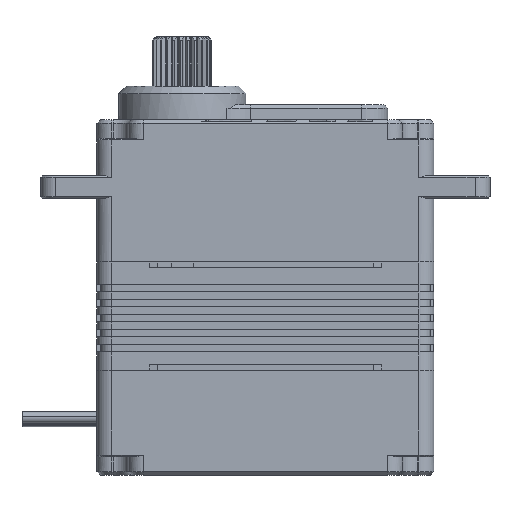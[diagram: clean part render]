
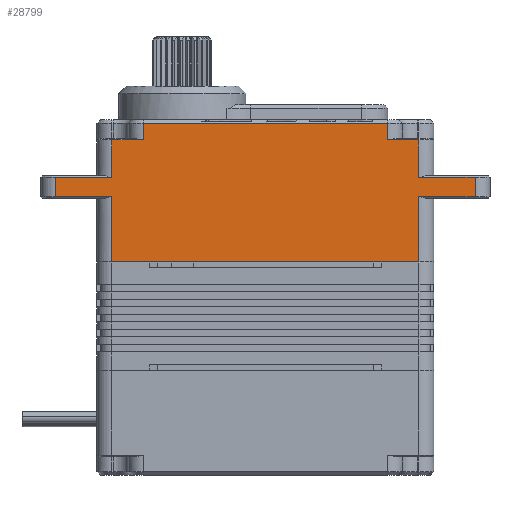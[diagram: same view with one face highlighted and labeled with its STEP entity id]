
A CAD part, front view. The second image highlights one B-rep face of the part: STEP entity #28799.
In plain terms, the highlighted planar face has unit normal (0, -1, 0).
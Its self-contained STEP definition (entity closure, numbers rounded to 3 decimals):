
#248 = VERTEX_POINT ( 'NONE', #17022 ) ;
#282 = LINE ( 'NONE', #24318, #16237 ) ;
#645 = LINE ( 'NONE', #14373, #29141 ) ;
#794 = ORIENTED_EDGE ( 'NONE', *, *, #8129, .T. ) ;
#804 = DIRECTION ( 'NONE',  ( 0., 1., 0. ) ) ;
#808 = CARTESIAN_POINT ( 'NONE',  ( -59.51, 17.009, 16.3 ) ) ;
#1126 = LINE ( 'NONE', #11501, #5810 ) ;
#1382 = CARTESIAN_POINT ( 'NONE',  ( -52.01, 17.009, 13.7 ) ) ;
#1401 = EDGE_CURVE ( 'NONE', #23269, #7123, #17127, .T. ) ;
#1585 = DIRECTION ( 'NONE',  ( -1., 0., 0. ) ) ;
#1720 = LINE ( 'NONE', #21945, #25918 ) ;
#1858 = VERTEX_POINT ( 'NONE', #12440 ) ;
#2001 = CARTESIAN_POINT ( 'NONE',  ( -52.01, 17.009, 21.3 ) ) ;
#2783 = VECTOR ( 'NONE', #8322, 1000. ) ;
#2850 = VERTEX_POINT ( 'NONE', #9831 ) ;
#2997 = EDGE_CURVE ( 'NONE', #248, #2850, #1720, .T. ) ;
#3148 = VECTOR ( 'NONE', #22595, 1000. ) ;
#3431 = CARTESIAN_POINT ( 'NONE',  ( -52.01, 17.009, 16.3 ) ) ;
#3527 = LINE ( 'NONE', #12425, #2783 ) ;
#4180 = ORIENTED_EDGE ( 'NONE', *, *, #25674, .T. ) ;
#4514 = CARTESIAN_POINT ( 'NONE',  ( -15.21, 17.009, 21.3 ) ) ;
#5309 = DIRECTION ( 'NONE',  ( 0., 0., 1. ) ) ;
#5410 = ORIENTED_EDGE ( 'NONE', *, *, #19938, .T. ) ;
#5572 = ORIENTED_EDGE ( 'NONE', *, *, #13184, .F. ) ;
#5810 = VECTOR ( 'NONE', #24659, 1000. ) ;
#6328 = VERTEX_POINT ( 'NONE', #1382 ) ;
#6841 = CARTESIAN_POINT ( 'NONE',  ( -9.01, 17.009, 13.7 ) ) ;
#7123 = VERTEX_POINT ( 'NONE', #808 ) ;
#7596 = VECTOR ( 'NONE', #7640, 1000. ) ;
#7640 = DIRECTION ( 'NONE',  ( 0., 0., 1. ) ) ;
#7697 = VECTOR ( 'NONE', #15556, 1000. ) ;
#7792 = DIRECTION ( 'NONE',  ( 0., 0., -1. ) ) ;
#7870 = ORIENTED_EDGE ( 'NONE', *, *, #11037, .T. ) ;
#8129 = EDGE_CURVE ( 'NONE', #7123, #10262, #23975, .T. ) ;
#8322 = DIRECTION ( 'NONE',  ( 0., 0., 1. ) ) ;
#8637 = LINE ( 'NONE', #10211, #20546 ) ;
#8894 = DIRECTION ( 'NONE',  ( -1., 0., 0. ) ) ;
#9831 = CARTESIAN_POINT ( 'NONE',  ( -47.81, 17.009, 21.3 ) ) ;
#10211 = CARTESIAN_POINT ( 'NONE',  ( -31.51, 17.009, 5. ) ) ;
#10262 = VERTEX_POINT ( 'NONE', #26241 ) ;
#10482 = VECTOR ( 'NONE', #14035, 1000. ) ;
#10540 = ORIENTED_EDGE ( 'NONE', *, *, #24408, .T. ) ;
#10719 = CARTESIAN_POINT ( 'NONE',  ( -3.51, 17.009, 16.3 ) ) ;
#10817 = EDGE_CURVE ( 'NONE', #13264, #22649, #27336, .T. ) ;
#11037 = EDGE_CURVE ( 'NONE', #12952, #19750, #23750, .T. ) ;
#11151 = CARTESIAN_POINT ( 'NONE',  ( -52.01, 17.009, 5.5 ) ) ;
#11223 = DIRECTION ( 'NONE',  ( 0., 0., -1. ) ) ;
#11224 = VERTEX_POINT ( 'NONE', #14091 ) ;
#11297 = CARTESIAN_POINT ( 'NONE',  ( -15.21, 17.009, 21.3 ) ) ;
#11501 = CARTESIAN_POINT ( 'NONE',  ( -11.01, 17.009, 5.5 ) ) ;
#11642 = ORIENTED_EDGE ( 'NONE', *, *, #12555, .T. ) ;
#11655 = VECTOR ( 'NONE', #8894, 1000. ) ;
#11922 = CARTESIAN_POINT ( 'NONE',  ( -3.51, 17.009, 13.7 ) ) ;
#12159 = DIRECTION ( 'NONE',  ( -1., 0., 0. ) ) ;
#12425 = CARTESIAN_POINT ( 'NONE',  ( -11.01, 17.009, 5.5 ) ) ;
#12440 = CARTESIAN_POINT ( 'NONE',  ( -11.01, 17.009, 5. ) ) ;
#12555 = EDGE_CURVE ( 'NONE', #22070, #24483, #1126, .T. ) ;
#12952 = VERTEX_POINT ( 'NONE', #20895 ) ;
#13141 = VECTOR ( 'NONE', #22510, 1000. ) ;
#13146 = CARTESIAN_POINT ( 'NONE',  ( -11.01, 17.009, 21.3 ) ) ;
#13184 = EDGE_CURVE ( 'NONE', #1858, #11224, #8637, .T. ) ;
#13215 = LINE ( 'NONE', #11151, #29763 ) ;
#13232 = CARTESIAN_POINT ( 'NONE',  ( -52.01, 17.009, 5.5 ) ) ;
#13264 = VERTEX_POINT ( 'NONE', #11297 ) ;
#13488 = DIRECTION ( 'NONE',  ( 0., 0., -1. ) ) ;
#13627 = ORIENTED_EDGE ( 'NONE', *, *, #29774, .T. ) ;
#13836 = EDGE_CURVE ( 'NONE', #15035, #23269, #13215, .T. ) ;
#14035 = DIRECTION ( 'NONE',  ( 1., 0., 0. ) ) ;
#14091 = CARTESIAN_POINT ( 'NONE',  ( -52.01, 17.009, 5. ) ) ;
#14373 = CARTESIAN_POINT ( 'NONE',  ( -9.01, 17.009, 16.3 ) ) ;
#14685 = PLANE ( 'NONE',  #20221 ) ;
#14880 = CARTESIAN_POINT ( 'NONE',  ( -11.01, 17.009, 16.3 ) ) ;
#15035 = VERTEX_POINT ( 'NONE', #2001 ) ;
#15556 = DIRECTION ( 'NONE',  ( -1., 0., 0. ) ) ;
#15783 = DIRECTION ( 'NONE',  ( 0., 0., -1. ) ) ;
#16237 = VECTOR ( 'NONE', #1585, 1000. ) ;
#16642 = LINE ( 'NONE', #6841, #10482 ) ;
#17022 = CARTESIAN_POINT ( 'NONE',  ( -47.81, 17.009, 23.5 ) ) ;
#17127 = LINE ( 'NONE', #27011, #7697 ) ;
#17673 = CARTESIAN_POINT ( 'NONE',  ( -15.21, 17.009, 23.5 ) ) ;
#18012 = VECTOR ( 'NONE', #5309, 1000. ) ;
#18469 = LINE ( 'NONE', #21396, #7596 ) ;
#18954 = EDGE_LOOP ( 'NONE', ( #4180, #7870, #23159, #22643, #11642, #13627, #28516, #10540, #23297, #5410, #19776, #27367, #794, #19211, #19858, #5572 ) ) ;
#19211 = ORIENTED_EDGE ( 'NONE', *, *, #19658, .T. ) ;
#19658 = EDGE_CURVE ( 'NONE', #10262, #6328, #16642, .T. ) ;
#19750 = VERTEX_POINT ( 'NONE', #11922 ) ;
#19776 = ORIENTED_EDGE ( 'NONE', *, *, #13836, .T. ) ;
#19858 = ORIENTED_EDGE ( 'NONE', *, *, #26223, .T. ) ;
#19938 = EDGE_CURVE ( 'NONE', #2850, #15035, #282, .T. ) ;
#19947 = VECTOR ( 'NONE', #20940, 1000. ) ;
#20109 = CARTESIAN_POINT ( 'NONE',  ( -47.81, 17.009, 23.5 ) ) ;
#20221 = AXIS2_PLACEMENT_3D ( 'NONE', #28120, #804, #7792 ) ;
#20453 = LINE ( 'NONE', #13232, #27245 ) ;
#20546 = VECTOR ( 'NONE', #29207, 1000. ) ;
#20895 = CARTESIAN_POINT ( 'NONE',  ( -11.01, 17.009, 13.7 ) ) ;
#20940 = DIRECTION ( 'NONE',  ( -1., 0., 0. ) ) ;
#21396 = CARTESIAN_POINT ( 'NONE',  ( -3.51, 17.009, 16.5 ) ) ;
#21945 = CARTESIAN_POINT ( 'NONE',  ( -47.81, 17.009, 5.5 ) ) ;
#22070 = VERTEX_POINT ( 'NONE', #14880 ) ;
#22510 = DIRECTION ( 'NONE',  ( 0., 0., -1. ) ) ;
#22593 = FACE_OUTER_BOUND ( 'NONE', #18954, .T. ) ;
#22595 = DIRECTION ( 'NONE',  ( 1., 0., 0. ) ) ;
#22643 = ORIENTED_EDGE ( 'NONE', *, *, #27590, .T. ) ;
#22649 = VERTEX_POINT ( 'NONE', #17673 ) ;
#23108 = EDGE_CURVE ( 'NONE', #19750, #29046, #18469, .T. ) ;
#23159 = ORIENTED_EDGE ( 'NONE', *, *, #23108, .T. ) ;
#23269 = VERTEX_POINT ( 'NONE', #3431 ) ;
#23297 = ORIENTED_EDGE ( 'NONE', *, *, #2997, .T. ) ;
#23750 = LINE ( 'NONE', #27089, #3148 ) ;
#23975 = LINE ( 'NONE', #27024, #13141 ) ;
#24318 = CARTESIAN_POINT ( 'NONE',  ( -52.01, 17.009, 21.3 ) ) ;
#24408 = EDGE_CURVE ( 'NONE', #22649, #248, #25353, .T. ) ;
#24483 = VERTEX_POINT ( 'NONE', #13146 ) ;
#24659 = DIRECTION ( 'NONE',  ( 0., 0., 1. ) ) ;
#25353 = LINE ( 'NONE', #20109, #11655 ) ;
#25674 = EDGE_CURVE ( 'NONE', #1858, #12952, #3527, .T. ) ;
#25918 = VECTOR ( 'NONE', #11223, 1000. ) ;
#26056 = LINE ( 'NONE', #4514, #19947 ) ;
#26223 = EDGE_CURVE ( 'NONE', #6328, #11224, #20453, .T. ) ;
#26241 = CARTESIAN_POINT ( 'NONE',  ( -59.51, 17.009, 13.7 ) ) ;
#27011 = CARTESIAN_POINT ( 'NONE',  ( -9.01, 17.009, 16.3 ) ) ;
#27024 = CARTESIAN_POINT ( 'NONE',  ( -59.51, 17.009, 13.5 ) ) ;
#27089 = CARTESIAN_POINT ( 'NONE',  ( -9.01, 17.009, 13.7 ) ) ;
#27245 = VECTOR ( 'NONE', #15783, 1000. ) ;
#27336 = LINE ( 'NONE', #28685, #18012 ) ;
#27367 = ORIENTED_EDGE ( 'NONE', *, *, #1401, .T. ) ;
#27590 = EDGE_CURVE ( 'NONE', #29046, #22070, #645, .T. ) ;
#28120 = CARTESIAN_POINT ( 'NONE',  ( -9.01, 17.009, 5.5 ) ) ;
#28516 = ORIENTED_EDGE ( 'NONE', *, *, #10817, .T. ) ;
#28685 = CARTESIAN_POINT ( 'NONE',  ( -15.21, 17.009, 5.5 ) ) ;
#28799 = ADVANCED_FACE ( 'NONE', ( #22593 ), #14685, .F. ) ;
#29046 = VERTEX_POINT ( 'NONE', #10719 ) ;
#29141 = VECTOR ( 'NONE', #12159, 1000. ) ;
#29207 = DIRECTION ( 'NONE',  ( -1., 0., 0. ) ) ;
#29763 = VECTOR ( 'NONE', #13488, 1000. ) ;
#29774 = EDGE_CURVE ( 'NONE', #24483, #13264, #26056, .T. ) ;
